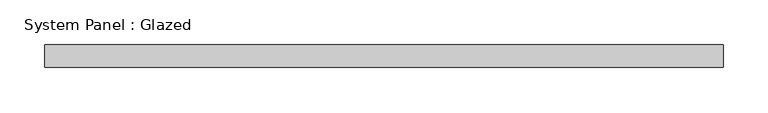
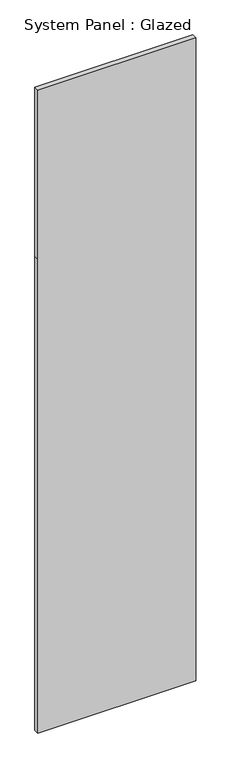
"""IFC4 building model written with IfcOpenShell, lengths in millimetres: plate geometry, System Panel : Glazed."""

import ifcopenshell
import ifcopenshell.guid

model = None  # the IFC model being written
_history = None  # IfcOwnerHistory: only IFC2X3 demands one
_inside = {}  # id of a spatial element -> (the spatial element, [elements in it])
_under = {}  # id of a project, library or spatial element -> (it, [spatial elements below it])
_declared = {}  # id of a project -> (the project, [libraries it declares])
_typed = {}  # id of a type object -> (the type object, [elements of that type])
_made_of = {}  # id of a material, layer set ... -> (it, [elements and type objects made of it])


def new_model(schema):
    """Start an empty IFC model of exactly this schema.

    Asked for "IFC4X3", IfcOpenShell would pick the latest addendum, in which some entities
    have other attributes; the version numbers below select the first issue.
    IFC2X3 requires an IfcOwnerHistory on every rooted entity: one is made here for all.
    """
    global model, _history
    if schema == "IFC4X3":
        model = ifcopenshell.file(schema_version=(4, 3, 0, 0))
    else:
        model = ifcopenshell.file(schema=schema)
    _inside.clear()
    _under.clear()
    _declared.clear()
    _typed.clear()
    _made_of.clear()
    _history = None
    if model.schema == "IFC2X3":
        org = make("IfcOrganization", Name="unknown")
        user = make(
            "IfcPersonAndOrganization",
            ThePerson=make("IfcPerson", FamilyName="unknown"),
            TheOrganization=org,
        )
        app = make(
            "IfcApplication",
            ApplicationDeveloper=org,
            Version="unknown",
            ApplicationFullName="unknown",
            ApplicationIdentifier="unknown",
        )
        _history = make(
            "IfcOwnerHistory",
            OwningUser=user,
            OwningApplication=app,
            ChangeAction="ADDED",
            CreationDate=0,
        )
    return model


def make(cls, **values):
    """One entity of the class cls with the attributes given. An attribute that is None is left unset."""
    return model.create_entity(
        cls, **{name: value for name, value in values.items() if value is not None}
    )


def rooted(cls, **values):
    """An entity with a GlobalId (a new one), such as an element, a storey or a relation."""
    return make(cls, GlobalId=ifcopenshell.guid.new(), OwnerHistory=_history, **values)


def si_unit(unit_type, name, prefix=None):
    """IfcSIUnit, for example si_unit("LENGTHUNIT", "METRE", prefix="MILLI")."""
    return make("IfcSIUnit", UnitType=unit_type, Prefix=prefix, Name=name)


def assignment(units):
    """IfcUnitAssignment: the units of a project."""
    return None if units is None else make("IfcUnitAssignment", Units=units)


def point(xyz):
    """IfcCartesianPoint."""
    return None if xyz is None else make("IfcCartesianPoint", Coordinates=xyz)


def direction(xyz):
    """IfcDirection."""
    return None if xyz is None else make("IfcDirection", DirectionRatios=xyz)


def frame(location, z_axis=None, x_axis=None):
    """IfcAxis2Placement3D, a coordinate frame: its origin and axes. An axis left out is left unset."""
    return make(
        "IfcAxis2Placement3D",
        Location=point(location),
        Axis=direction(z_axis),
        RefDirection=direction(x_axis),
    )


def origin():
    """The frame at (0, 0, 0) with its axes left unset."""
    return frame((0.0, 0.0, 0.0))


def place(relative_to, where):
    """IfcLocalPlacement: puts the frame where relative to a parent placement (None: the world)."""
    return make(
        "IfcLocalPlacement", PlacementRelTo=relative_to, RelativePlacement=where
    )


def context(
    kind, dimensions, precision=None, world=None, true_north=None, identifier=None
):
    """IfcGeometricRepresentationContext, for example the 3D "Model" context."""
    return make(
        "IfcGeometricRepresentationContext",
        ContextIdentifier=identifier,
        ContextType=kind,
        CoordinateSpaceDimension=dimensions,
        Precision=precision,
        WorldCoordinateSystem=world,
        TrueNorth=true_north,
    )


def project(units=None, contexts=None):
    """IfcProject with its units and contexts."""
    return rooted(
        "IfcProject",
        Name="project",
        RepresentationContexts=contexts,
        UnitsInContext=assignment(units),
    )


def spatial(cls, under=None, at=None, **own):
    """A site, building, storey or space (cls), placed at a placement, below another one or the project."""
    s = rooted(cls, ObjectPlacement=at, **own)
    if under is not None:
        _under.setdefault(under.id(), (under, []))[1].append(s)
    return s


def polyline(points):
    """IfcPolyline through the points."""
    return make("IfcPolyline", Points=[point(p) for p in points])


def outline(outer, holes=None, kind="AREA"):
    """IfcArbitraryClosedProfileDef: a profile drawn as a closed curve; with holes, ...WithVoids."""
    if holes is None:
        return make("IfcArbitraryClosedProfileDef", ProfileType=kind, OuterCurve=outer)
    return make(
        "IfcArbitraryProfileDefWithVoids",
        ProfileType=kind,
        OuterCurve=outer,
        InnerCurves=holes,
    )


def extrude(swept, where, along, depth):
    """IfcExtrudedAreaSolid: the profile swept, set in the frame where, extruded along a direction by depth."""
    return make(
        "IfcExtrudedAreaSolid",
        SweptArea=swept,
        Position=where,
        ExtrudedDirection=direction(along),
        Depth=depth,
    )


def shape(context_of_items, identifier, shape_type, items):
    """IfcShapeRepresentation: the items that make up one representation, for example the "Body"."""
    return make(
        "IfcShapeRepresentation",
        ContextOfItems=context_of_items,
        RepresentationIdentifier=identifier,
        RepresentationType=shape_type,
        Items=items,
    )


def source(mapping_origin, context_of_items, identifier, shape_type, items):
    """IfcRepresentationMap: a shape defined once, which mapped items show again and again."""
    return make(
        "IfcRepresentationMap",
        MappingOrigin=mapping_origin,
        MappedRepresentation=shape(context_of_items, identifier, shape_type, items),
    )


def transform(
    local_origin,
    x_axis=None,
    y_axis=None,
    z_axis=None,
    scale=None,
    scale2=None,
    scale3=None,
    uniform=True,
):
    """IfcCartesianTransformationOperator3D, or its non-uniform kind. x_axis, y_axis, z_axis: its Axis1, 2, 3."""
    if uniform:
        return make(
            "IfcCartesianTransformationOperator3D",
            Axis1=direction(x_axis),
            Axis2=direction(y_axis),
            LocalOrigin=point(local_origin),
            Scale=scale,
            Axis3=direction(z_axis),
        )
    return make(
        "IfcCartesianTransformationOperator3DnonUniform",
        Axis1=direction(x_axis),
        Axis2=direction(y_axis),
        LocalOrigin=point(local_origin),
        Scale=scale,
        Axis3=direction(z_axis),
        Scale2=scale2,
        Scale3=scale3,
    )


def mapped(mapping_source, mapping_target):
    """IfcMappedItem: shows the shape of a source again, moved by a transform."""
    return make(
        "IfcMappedItem", MappingSource=mapping_source, MappingTarget=mapping_target
    )


def made_of(thing, what):
    """Note that an element or type object is made of a material, layer set ...; save() writes the relation."""
    if what is not None:
        _made_of.setdefault(what.id(), (what, []))[1].append(thing)
    return thing


def element(
    cls,
    number,
    at=None,
    inside=None,
    cuts=None,
    type_object=None,
    material=None,
    context=None,
    identifier="Body",
    shape_type=None,
    held_by="IfcProductDefinitionShape",
    body=None,
    shapes=None,
    **own,
):
    """One element of the class cls, such as IfcWall. Its Tag is "e" and its number.

    at: its placement. inside: the storey or other place that contains it. cuts: it is an
    opening in that element (IfcRelVoidsElement). A single representation is given by context,
    identifier, shape_type and body (its items); several are given by shapes. held_by: the class
    of the entity that holds the representations. save() writes the other relations.
    """
    e = rooted(cls, Tag="e%d" % number, ObjectPlacement=at, **own)
    if body is not None:
        shapes = [shape(context, identifier, shape_type, body)]
    if shapes is not None:
        e.Representation = make(held_by, Representations=shapes)
    if inside is not None:
        _inside.setdefault(inside.id(), (inside, []))[1].append(e)
    if cuts is not None:
        rooted(
            "IfcRelVoidsElement", RelatingBuildingElement=cuts, RelatedOpeningElement=e
        )
    if type_object is not None:
        _typed.setdefault(type_object.id(), (type_object, []))[1].append(e)
    return made_of(e, material)


def aggregate(whole, parts):
    """IfcRelAggregates: a whole, such as a stair, and the parts it consists of."""
    return rooted("IfcRelAggregates", RelatingObject=whole, RelatedObjects=parts)


def save(model, path):
    """Write the relations noted so far, then the file.

    IfcRelAggregates (storeys below a building ...), IfcRelContainedInSpatialStructure (elements
    in a storey), IfcRelDefinesByType, IfcRelAssociatesMaterial and IfcRelDeclares: one each for
    every whole, place, type object, material and project.
    """
    for whole, parts in _under.values():
        aggregate(whole, parts)
    for where, things in _inside.values():
        rooted(
            "IfcRelContainedInSpatialStructure",
            RelatedElements=things,
            RelatingStructure=where,
        )
    for kind, things in _typed.values():
        rooted("IfcRelDefinesByType", RelatedObjects=things, RelatingType=kind)
    for what, things in _made_of.values():
        rooted("IfcRelAssociatesMaterial", RelatedObjects=things, RelatingMaterial=what)
    for by, libraries in _declared.values():
        rooted("IfcRelDeclares", RelatingContext=by, RelatedDefinitions=libraries)
    model.write(path)


def system_panel_glazed_4ab61fab(model_context):
    return source(origin(), model_context, "Body", "SweptSolid", [
        extrude(outline(polyline([(0.0, -377.5), (0.0, 377.5), (2395.0, 377.5), (3250.0, 377.5), (3250.0, -377.5), (2395.0, -377.5), (0.0, -377.5)])), frame((0.0, 24.5, 0.0), z_axis=(0.0, 1.0, 0.0), x_axis=(0.0, 0.0, 1.0)), (0.0, 0.0, 1.0), 25.0),
    ])


if __name__ == "__main__":
    model = new_model("IFC4")
    model_context = context("Model", 3, world=origin())
    ifc_project = project(units=[si_unit("LENGTHUNIT", "METRE", prefix="MILLI")], contexts=[model_context])
    site = spatial("IfcSite", under=ifc_project)
    building = spatial("IfcBuilding", under=site)
    placement = place(None, origin())
    system_panel_glazed_shape = system_panel_glazed_4ab61fab(model_context)
    element("IfcPlate", 1, ObjectType="System Panel : Glazed", at=placement, inside=building, context=model_context, shape_type="MappedRepresentation", body=[
        mapped(system_panel_glazed_shape, transform((0.0, 0.0, 0.0), x_axis=(1.0, 0.0, 0.0), y_axis=(0.0, 1.0, 0.0), z_axis=(0.0, 0.0, 1.0))),
    ])
    save(model, "model.ifc")
